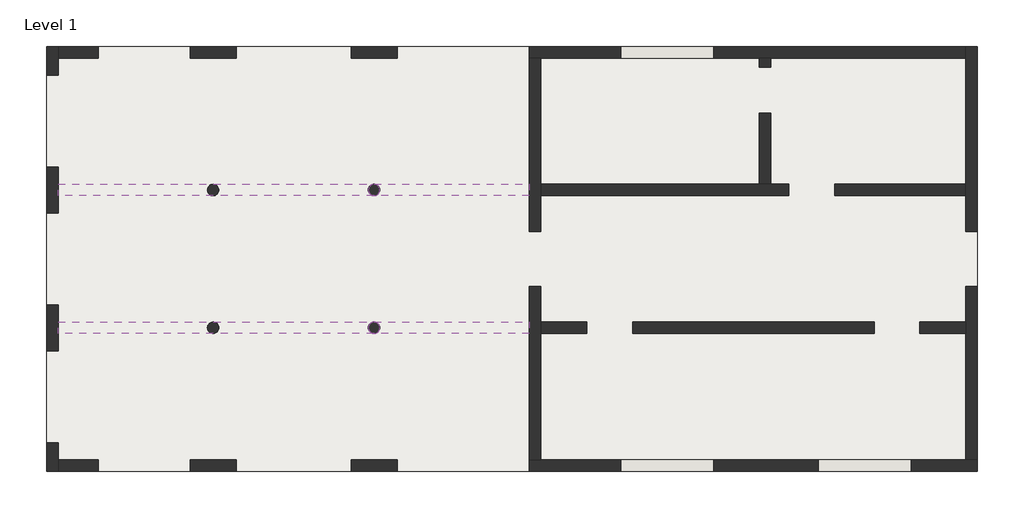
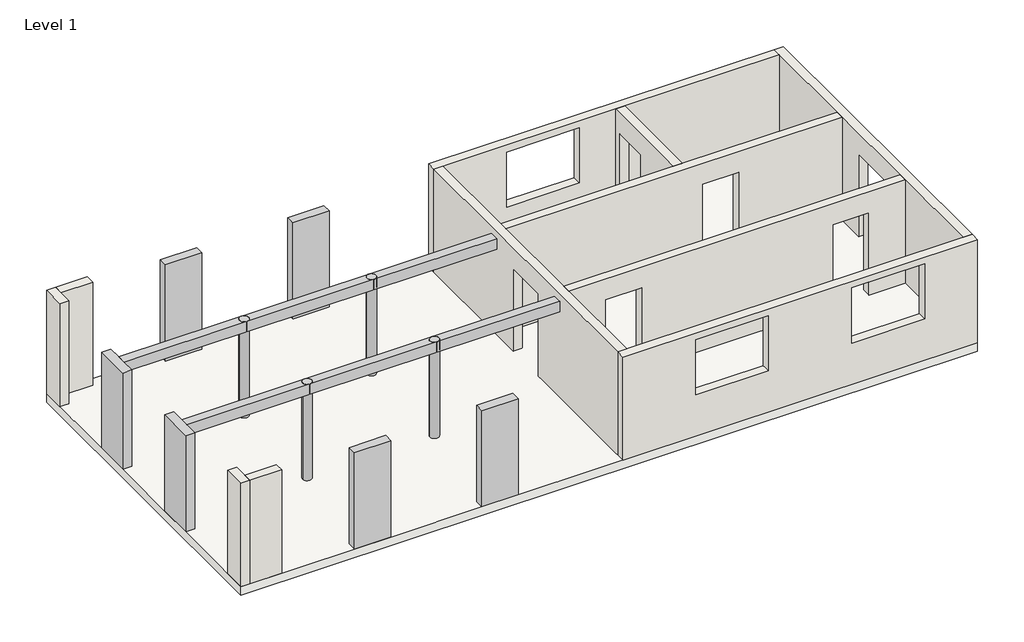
# One storey: 11 walls, 10 columns, 4 beams, 1 slab.
"""IFC4 building model written with IfcOpenShell, lengths in millimetres."""

from ifc_helpers import new_model, si_unit, point, frame, frame_2d, origin, origin_with_axes, place, context, project, spatial, polyline, circle_curve, trimmed, segment, composite_curve, outline, extrude, faceted_brep, element, save
from ifc_brep_helpers import plane_surface, cylinder_surface, revolved_surface, advanced_brep

model = new_model("IFC4")

# Units and contexts
model_context = context("Model", 3, world=origin())
ifc_project = project(units=[si_unit("LENGTHUNIT", "METRE", prefix="MILLI")], contexts=[model_context])

# Site, building, storey
site = spatial("IfcSite", under=ifc_project)
building = spatial("IfcBuilding", under=site)
storey = spatial("IfcBuildingStorey", under=building, Name="Level 1", Elevation=0.0)

# Beams
placement = place(None, origin())
element("IfcBeam", 1, ObjectType="M_Concrete-Rectangular Beam : 25/50 cm", at=placement, inside=storey, context=model_context, shape_type="AdvancedBrep", body=[
    advanced_brep(
    [(-10243.1210397, -3913.8455619, 2500.0), (-6743.1210397, -3913.8455619, 2500.0), (-6743.1210397, -3913.8455619, 2800.0), (-13618.1210397, -3913.8455619, 2800.0), (-13618.1210397, -3913.8455619, 2500.0), (-10118.1210397, -3788.8455619, 2500.0), (-10243.1210397, -3663.8455619, 2500.0), (-6743.1210397, -3663.8455619, 2500.0), (-6868.1210397, -3788.8455619, 2500.0), (-13618.1210397, -3663.8455619, 2500.0), (-13618.1210397, -3663.8455619, 2800.0), (-6743.1210397, -3663.8455619, 2800.0), (-10118.1210397, -3788.8455619, 2800.0), (-10368.1210397, -3788.8455619, 2800.0), (-10368.1210397, -3788.8455619, 2500.0), (-6868.1210397, -3788.8455619, 2800.0)],
    [
        (0, 1),
        (1, 2),
        (2, 3),
        (3, 4),
        (4, 0),
        (5, 6, circle_curve(frame((-10243.1210397, -3788.8455619, 2500.0), z_axis=(0.0, 0.0, 1.0), x_axis=(1.0, 0.0, 0.0)), 125.0)),
        (6, 7),
        (7, 8, circle_curve(frame((-6743.1210397, -3788.8455619, 2500.0), z_axis=(0.0, 0.0, 1.0), x_axis=(1.0, 0.0, 0.0)), 125.0)),
        (8, 1, circle_curve(frame((-6743.1210397, -3788.8455619, 2500.0), z_axis=(0.0, 0.0, 1.0), x_axis=(1.0, 0.0, 0.0)), 125.0)),
        (0, 5, circle_curve(frame((-10243.1210397, -3788.8455619, 2500.0), z_axis=(0.0, 0.0, 1.0), x_axis=(1.0, 0.0, 0.0)), 125.0)),
        (6, 9),
        (9, 10),
        (10, 11),
        (11, 7),
        (5, 12),
        (12, 13, circle_curve(frame((-10243.1210397, -3788.8455619, 2800.0), z_axis=(0.0, 0.0, 1.0), x_axis=(1.0, 0.0, 0.0)), 125.0)),
        (13, 14),
        (14, 6, circle_curve(frame((-10243.1210397, -3788.8455619, 2500.0), z_axis=(0.0, 0.0, -1.0), x_axis=(1.0, 0.0, 0.0)), 125.0)),
        (0, 14, circle_curve(frame((-10243.1210397, -3788.8455619, 2500.0), z_axis=(0.0, 0.0, -1.0), x_axis=(1.0, 0.0, 0.0)), 125.0)),
        (13, 12, circle_curve(frame((-10243.1210397, -3788.8455619, 2800.0), z_axis=(0.0, 0.0, 1.0), x_axis=(1.0, 0.0, 0.0)), 125.0)),
        (11, 15, circle_curve(frame((-6743.1210397, -3788.8455619, 2800.0), z_axis=(0.0, 0.0, 1.0), x_axis=(1.0, 0.0, 0.0)), 125.0)),
        (15, 8),
        (15, 2, circle_curve(frame((-6743.1210397, -3788.8455619, 2800.0), z_axis=(0.0, 0.0, 1.0), x_axis=(1.0, 0.0, 0.0)), 125.0)),
        (9, 4),
        (3, 10),
    ],
    [
        plane_surface(frame((-6880.8210397, -3913.8455619, 3000.0), z_axis=(0.0, -1.0, 0.0), x_axis=(-1.0, 0.0, 0.0))),
        plane_surface(frame((-6880.8210397, -3913.8455619, 2500.0), z_axis=(0.0, 0.0, -1.0), x_axis=(-1.0, 0.0, 0.0))),
        plane_surface(frame((-6880.8210397, -3663.8455619, 2500.0), z_axis=(0.0, 1.0, 0.0), x_axis=(-1.0, 0.0, 0.0))),
        revolved_surface(polyline([(-10118.1210397, -3788.8455619, 2800.0), (-10118.1210397, -3788.8455619, 2500.0)]), (-10243.1210397, -3788.8455619, 0.0), (0.0, 0.0, 1.0)),
        revolved_surface(polyline([(-6618.1210397, -3788.8455619, 2800.0), (-6618.1210397, -3788.8455619, 2500.0)]), (-6743.1210397, -3788.8455619, 0.0), (0.0, 0.0, 1.0)),
        plane_surface(frame((-13618.1210397, -4288.8455619, 3000.0), z_axis=(-1.0, 0.0, 0.0), x_axis=(0.0, 0.0, -1.0))),
        plane_surface(frame((6381.8789603, -663.8455619, 2800.0), z_axis=(0.0, 0.0, 1.0), x_axis=(0.0, -1.0, 0.0))),
    ],
    [
        (0, [[1, 2, 3, 4, 5]]),
        (1, [[6, 7, 8, 9, -1, 10]]),
        (2, [[-7, 11, 12, 13, 14]]),
        (3, [[-6, 15, 16, 17, 18]]),
        (3, [[19, -17, 20, -15, -10]]),
        (4, [[-8, -14, 21, 22]]),
        (4, [[-9, -22, 23, -2]]),
        (5, [[24, -4, 25, -12]]),
        (6, [[-3, -23, -21, -13, -25], [-16, -20]]),
        (1, [[-19, -5, -24, -11, -18]]),
    ],
),
])
element("IfcBeam", 2, ObjectType="M_Concrete-Rectangular Beam : 25/50 cm", at=placement, inside=storey, context=model_context, shape_type="SweptSolid", body=[
    extrude(outline(composite_curve([segment(polyline([(-3913.8455619, -6743.1210397), (-3913.8455619, -3368.1210397), (-3663.8455619, -3368.1210397), (-3663.8455619, -6743.1210397)]), True, "CONTINUOUS"), segment(trimmed(circle_curve(frame_2d((-3788.8455619, -6743.1210397)), 125.0), [point((-3663.8455619, -6743.1210397))], [point((-3788.8455619, -6618.1210397))], True, "CARTESIAN"), True, "CONTINUOUS"), segment(trimmed(circle_curve(frame_2d((-3788.8455619, -6743.1210397)), 125.0), [point((-3788.8455619, -6618.1210397))], [point((-3913.8455619, -6743.1210397))], True, "CARTESIAN"), True, "CONTINUOUS")], self_intersect=False)), frame((0.0, 0.0, 2800.0), z_axis=(0.0, 0.0, -1.0), x_axis=(0.0, 1.0, 0.0)), (0.0, 0.0, 1.0), 300.0),
])
element("IfcBeam", 3, ObjectType="M_Concrete-Rectangular Beam : 25/50 cm", at=placement, inside=storey, context=model_context, shape_type="AdvancedBrep", body=[
    advanced_brep(
    [(-10243.1210397, -6913.8455619, 2500.0), (-6743.1210397, -6913.8455619, 2500.0), (-6743.1210397, -6913.8455619, 2800.0), (-13618.1210397, -6913.8455619, 2800.0), (-13618.1210397, -6913.8455619, 2500.0), (-10118.1210397, -6788.8455619, 2500.0), (-10243.1210397, -6663.8455619, 2500.0), (-6743.1210397, -6663.8455619, 2500.0), (-6868.1210397, -6788.8455619, 2500.0), (-13618.1210397, -6663.8455619, 2500.0), (-13618.1210397, -6663.8455619, 2800.0), (-6743.1210397, -6663.8455619, 2800.0), (-10118.1210397, -6788.8455619, 2800.0), (-10368.1210397, -6788.8455619, 2800.0), (-10368.1210397, -6788.8455619, 2500.0), (-6868.1210397, -6788.8455619, 2800.0)],
    [
        (0, 1),
        (1, 2),
        (2, 3),
        (3, 4),
        (4, 0),
        (5, 6, circle_curve(frame((-10243.1210397, -6788.8455619, 2500.0), z_axis=(0.0, 0.0, 1.0), x_axis=(1.0, 0.0, 0.0)), 125.0)),
        (6, 7),
        (7, 8, circle_curve(frame((-6743.1210397, -6788.8455619, 2500.0), z_axis=(0.0, 0.0, 1.0), x_axis=(1.0, 0.0, 0.0)), 125.0)),
        (8, 1, circle_curve(frame((-6743.1210397, -6788.8455619, 2500.0), z_axis=(0.0, 0.0, 1.0), x_axis=(1.0, 0.0, 0.0)), 125.0)),
        (0, 5, circle_curve(frame((-10243.1210397, -6788.8455619, 2500.0), z_axis=(0.0, 0.0, 1.0), x_axis=(1.0, 0.0, 0.0)), 125.0)),
        (6, 9),
        (9, 10),
        (10, 11),
        (11, 7),
        (5, 12),
        (12, 13, circle_curve(frame((-10243.1210397, -6788.8455619, 2800.0), z_axis=(0.0, 0.0, 1.0), x_axis=(1.0, 0.0, 0.0)), 125.0)),
        (13, 14),
        (14, 6, circle_curve(frame((-10243.1210397, -6788.8455619, 2500.0), z_axis=(0.0, 0.0, -1.0), x_axis=(1.0, 0.0, 0.0)), 125.0)),
        (0, 14, circle_curve(frame((-10243.1210397, -6788.8455619, 2500.0), z_axis=(0.0, 0.0, -1.0), x_axis=(1.0, 0.0, 0.0)), 125.0)),
        (13, 12, circle_curve(frame((-10243.1210397, -6788.8455619, 2800.0), z_axis=(0.0, 0.0, 1.0), x_axis=(1.0, 0.0, 0.0)), 125.0)),
        (11, 15, circle_curve(frame((-6743.1210397, -6788.8455619, 2800.0), z_axis=(0.0, 0.0, 1.0), x_axis=(1.0, 0.0, 0.0)), 125.0)),
        (15, 8),
        (15, 2, circle_curve(frame((-6743.1210397, -6788.8455619, 2800.0), z_axis=(0.0, 0.0, 1.0), x_axis=(1.0, 0.0, 0.0)), 125.0)),
        (9, 4),
        (3, 10),
    ],
    [
        plane_surface(frame((-6880.8210397, -6913.8455619, 3000.0), z_axis=(0.0, -1.0, 0.0), x_axis=(-1.0, 0.0, 0.0))),
        plane_surface(frame((-6880.8210397, -6913.8455619, 2500.0), z_axis=(0.0, 0.0, -1.0), x_axis=(-1.0, 0.0, 0.0))),
        plane_surface(frame((-6880.8210397, -6663.8455619, 2500.0), z_axis=(0.0, 1.0, 0.0), x_axis=(-1.0, 0.0, 0.0))),
        revolved_surface(polyline([(-10118.1210397, -6788.8455619, 2800.0), (-10118.1210397, -6788.8455619, 2500.0)]), (-10243.1210397, -6788.8455619, 0.0), (0.0, 0.0, 1.0)),
        revolved_surface(polyline([(-6618.1210397, -6788.8455619, 2800.0), (-6618.1210397, -6788.8455619, 2500.0)]), (-6743.1210397, -6788.8455619, 0.0), (0.0, 0.0, 1.0)),
        plane_surface(frame((-13618.1210397, -7288.8455619, 3000.0), z_axis=(-1.0, 0.0, 0.0), x_axis=(0.0, 0.0, -1.0))),
        plane_surface(frame((6381.8789603, -663.8455619, 2800.0), z_axis=(0.0, 0.0, 1.0), x_axis=(0.0, -1.0, 0.0))),
    ],
    [
        (0, [[1, 2, 3, 4, 5]]),
        (1, [[6, 7, 8, 9, -1, 10]]),
        (2, [[-7, 11, 12, 13, 14]]),
        (3, [[-6, 15, 16, 17, 18]]),
        (3, [[19, -17, 20, -15, -10]]),
        (4, [[-8, -14, 21, 22]]),
        (4, [[-9, -22, 23, -2]]),
        (5, [[24, -4, 25, -12]]),
        (6, [[-3, -23, -21, -13, -25], [-16, -20]]),
        (1, [[-19, -5, -24, -11, -18]]),
    ],
),
])
element("IfcBeam", 4, ObjectType="M_Concrete-Rectangular Beam : 25/50 cm", at=placement, inside=storey, context=model_context, shape_type="SweptSolid", body=[
    extrude(outline(composite_curve([segment(polyline([(-3368.1210397, -6663.8455619), (-3368.1210397, -6913.8455619), (-6743.1210397, -6913.8455619)]), True, "CONTINUOUS"), segment(trimmed(circle_curve(frame_2d((-6743.1210397, -6788.8455619)), 125.0), [point((-6743.1210397, -6913.8455619))], [point((-6618.1210397, -6788.8455619))], True, "CARTESIAN"), True, "CONTINUOUS"), segment(trimmed(circle_curve(frame_2d((-6743.1210397, -6788.8455619)), 125.0), [point((-6618.1210397, -6788.8455619))], [point((-6743.1210397, -6663.8455619))], True, "CARTESIAN"), True, "CONTINUOUS"), segment(polyline([(-6743.1210397, -6663.8455619), (-3368.1210397, -6663.8455619)]), True, "CONTINUOUS")], self_intersect=False)), frame((0.0, 0.0, 2500.0), z_axis=(0.0, 0.0, 1.0), x_axis=(1.0, 0.0, 0.0)), (0.0, 0.0, 1.0), 300.0),
])

# Columns
element("IfcColumn", 5, ObjectType="Concrete Round : 25 cm", at=placement, inside=storey, context=model_context, shape_type="SweptSolid", body=[
    extrude(outline(composite_curve([segment(trimmed(circle_curve(frame_2d((-10243.1210397, -3788.8455619)), 125.0), [point((-10368.1210397, -3788.8455619))], [point((-10118.1210397, -3788.8455619))], False, "CARTESIAN"), True, "CONTINUOUS"), segment(trimmed(circle_curve(frame_2d((-10243.1210397, -3788.8455619)), 125.0), [point((-10118.1210397, -3788.8455619))], [point((-10368.1210397, -3788.8455619))], False, "CARTESIAN"), True, "CONTINUOUS")], self_intersect=False)), origin_with_axes(), (0.0, 0.0, 1.0), 2800.0),
])
element("IfcColumn", 6, ObjectType="Concrete Round : 25 cm", at=placement, inside=storey, context=model_context, shape_type="AdvancedBrep", body=[
    advanced_brep(
    [(-6868.1210397, -3788.8455619, 0.0), (-6618.1210397, -3788.8455619, 0.0), (-6868.1210397, -3788.8455619, 2800.0), (-6743.1210397, -3663.8455619, 2800.0), (-6618.1210397, -3788.8455619, 2800.0), (-6743.1210397, -3913.8455619, 2800.0)],
    [
        (0, 1, circle_curve(frame((-6743.1210397, -3788.8455619, 0.0), z_axis=(0.0, 0.0, -1.0), x_axis=(1.0, 0.0, 0.0)), 125.0)),
        (1, 0, circle_curve(frame((-6743.1210397, -3788.8455619, 0.0), z_axis=(0.0, 0.0, -1.0), x_axis=(1.0, 0.0, 0.0)), 125.0)),
        (0, 2),
        (2, 3, circle_curve(frame((-6743.1210397, -3788.8455619, 2800.0), z_axis=(0.0, 0.0, -1.0), x_axis=(1.0, 0.0, 0.0)), 125.0)),
        (3, 4, circle_curve(frame((-6743.1210397, -3788.8455619, 2800.0), z_axis=(0.0, 0.0, -1.0), x_axis=(1.0, 0.0, 0.0)), 125.0)),
        (4, 1),
        (4, 5, circle_curve(frame((-6743.1210397, -3788.8455619, 2800.0), z_axis=(0.0, 0.0, -1.0), x_axis=(1.0, 0.0, 0.0)), 125.0)),
        (5, 2, circle_curve(frame((-6743.1210397, -3788.8455619, 2800.0), z_axis=(0.0, 0.0, -1.0), x_axis=(1.0, 0.0, 0.0)), 125.0)),
    ],
    [
        plane_surface(frame((-6618.1210397, -3788.8455619, 0.0), z_axis=(0.0, 0.0, -1.0), x_axis=(0.0, -1.0, 0.0))),
        cylinder_surface(frame((-6743.1210397, -3788.8455619, 0.0), z_axis=(0.0, 0.0, 1.0), x_axis=(1.0, 0.0, 0.0)), 125.0),
        plane_surface(frame((6381.8789603, -663.8455619, 2800.0), z_axis=(0.0, 0.0, 1.0), x_axis=(0.0, -1.0, 0.0))),
    ],
    [
        (0, [[1, 2]]),
        (1, [[-1, 3, 4, 5, 6]]),
        (1, [[-2, -6, 7, 8, -3]]),
        (2, [[-5, -4, -8, -7]]),
    ],
),
])
element("IfcColumn", 7, ObjectType="Concrete Round : 25 cm", at=placement, inside=storey, context=model_context, shape_type="SweptSolid", body=[
    extrude(outline(composite_curve([segment(trimmed(circle_curve(frame_2d((-10243.1210397, -6788.8455619)), 125.0), [point((-10368.1210397, -6788.8455619))], [point((-10118.1210397, -6788.8455619))], False, "CARTESIAN"), True, "CONTINUOUS"), segment(trimmed(circle_curve(frame_2d((-10243.1210397, -6788.8455619)), 125.0), [point((-10118.1210397, -6788.8455619))], [point((-10368.1210397, -6788.8455619))], False, "CARTESIAN"), True, "CONTINUOUS")], self_intersect=False)), origin_with_axes(), (0.0, 0.0, 1.0), 2800.0),
])
element("IfcColumn", 8, ObjectType="Concrete Round : 25 cm", at=placement, inside=storey, context=model_context, shape_type="AdvancedBrep", body=[
    advanced_brep(
    [(-6868.1210397, -6788.8455619, 0.0), (-6618.1210397, -6788.8455619, 0.0), (-6868.1210397, -6788.8455619, 2800.0), (-6743.1210397, -6663.8455619, 2800.0), (-6618.1210397, -6788.8455619, 2800.0), (-6743.1210397, -6913.8455619, 2800.0)],
    [
        (0, 1, circle_curve(frame((-6743.1210397, -6788.8455619, 0.0), z_axis=(0.0, 0.0, -1.0), x_axis=(1.0, 0.0, 0.0)), 125.0)),
        (1, 0, circle_curve(frame((-6743.1210397, -6788.8455619, 0.0), z_axis=(0.0, 0.0, -1.0), x_axis=(1.0, 0.0, 0.0)), 125.0)),
        (0, 2),
        (2, 3, circle_curve(frame((-6743.1210397, -6788.8455619, 2800.0), z_axis=(0.0, 0.0, -1.0), x_axis=(1.0, 0.0, 0.0)), 125.0)),
        (3, 4, circle_curve(frame((-6743.1210397, -6788.8455619, 2800.0), z_axis=(0.0, 0.0, -1.0), x_axis=(1.0, 0.0, 0.0)), 125.0)),
        (4, 1),
        (4, 5, circle_curve(frame((-6743.1210397, -6788.8455619, 2800.0), z_axis=(0.0, 0.0, -1.0), x_axis=(1.0, 0.0, 0.0)), 125.0)),
        (5, 2, circle_curve(frame((-6743.1210397, -6788.8455619, 2800.0), z_axis=(0.0, 0.0, -1.0), x_axis=(1.0, 0.0, 0.0)), 125.0)),
    ],
    [
        plane_surface(frame((-6618.1210397, -6788.8455619, 0.0), z_axis=(0.0, 0.0, -1.0), x_axis=(0.0, -1.0, 0.0))),
        cylinder_surface(frame((-6743.1210397, -6788.8455619, 0.0), z_axis=(0.0, 0.0, 1.0), x_axis=(1.0, 0.0, 0.0)), 125.0),
        plane_surface(frame((6381.8789603, -663.8455619, 2800.0), z_axis=(0.0, 0.0, 1.0), x_axis=(0.0, -1.0, 0.0))),
    ],
    [
        (0, [[1, 2]]),
        (1, [[-1, 3, 4, 5, 6]]),
        (1, [[-2, -6, 7, 8, -3]]),
        (2, [[-5, -4, -8, -7]]),
    ],
),
])
element("IfcColumn", 9, ObjectType="M_Concrete-Rectangular-Column : 25 x 100", at=placement, inside=storey, context=model_context, shape_type="SweptSolid", body=[
    extrude(outline(polyline([(-10743.1210397, -663.8455619), (-9743.1210397, -663.8455619), (-9743.1210397, -913.8455619), (-10743.1210397, -913.8455619), (-10743.1210397, -663.8455619)])), origin_with_axes(), (0.0, 0.0, 1.0), 2800.0),
])
element("IfcColumn", 10, ObjectType="M_Concrete-Rectangular-Column : 25 x 100", at=placement, inside=storey, context=model_context, shape_type="SweptSolid", body=[
    extrude(outline(polyline([(-7243.1210397, -663.8455619), (-6243.1210397, -663.8455619), (-6243.1210397, -913.8455619), (-7243.1210397, -913.8455619), (-7243.1210397, -663.8455619)])), origin_with_axes(), (0.0, 0.0, 1.0), 2800.0),
])
element("IfcColumn", 11, ObjectType="M_Concrete-Rectangular-Column : 25 x 100", at=placement, inside=storey, context=model_context, shape_type="SweptSolid", body=[
    extrude(outline(polyline([(-10743.1210397, -9663.8455619), (-9743.1210397, -9663.8455619), (-9743.1210397, -9913.8455619), (-10743.1210397, -9913.8455619), (-10743.1210397, -9663.8455619)])), origin_with_axes(), (0.0, 0.0, 1.0), 2800.0),
])
element("IfcColumn", 12, ObjectType="M_Concrete-Rectangular-Column : 25 x 100", at=placement, inside=storey, context=model_context, shape_type="SweptSolid", body=[
    extrude(outline(polyline([(-7243.1210397, -9663.8455619), (-6243.1210397, -9663.8455619), (-6243.1210397, -9913.8455619), (-7243.1210397, -9913.8455619), (-7243.1210397, -9663.8455619)])), origin_with_axes(), (0.0, 0.0, 1.0), 2800.0),
])
element("IfcColumn", 13, ObjectType="M_Concrete-Rectangular-Column : 25 x 100", at=placement, inside=storey, context=model_context, shape_type="Brep", body=[
    faceted_brep([(-13618.1210397, -3288.8455619, 0.0), (-13618.1210397, -4288.8455619, 0.0), (-13868.1210397, -4288.8455619, 0.0), (-13868.1210397, -3288.8455619, 0.0), (-13618.1210397, -3288.8455619, 2800.0), (-13618.1210397, -3663.8455619, 2800.0), (-13618.1210397, -3913.8455619, 2800.0), (-13618.1210397, -4288.8455619, 2800.0), (-13868.1210397, -4288.8455619, 2800.0), (-13868.1210397, -3288.8455619, 2800.0)], [[[0, 1, 2, 3]], [[1, 0, 4, 5, 6, 7]], [[2, 1, 7, 8]], [[3, 2, 8, 9]], [[0, 3, 9, 4]], [[7, 6, 5, 4, 9, 8]]]),
])
element("IfcColumn", 14, ObjectType="M_Concrete-Rectangular-Column : 25 x 100", at=placement, inside=storey, context=model_context, shape_type="Brep", body=[
    faceted_brep([(-13618.1210397, -6288.8455619, 0.0), (-13618.1210397, -7288.8455619, 0.0), (-13868.1210397, -7288.8455619, 0.0), (-13868.1210397, -6288.8455619, 0.0), (-13618.1210397, -6288.8455619, 2800.0), (-13618.1210397, -6663.8455619, 2800.0), (-13618.1210397, -6913.8455619, 2800.0), (-13618.1210397, -7288.8455619, 2800.0), (-13868.1210397, -7288.8455619, 2800.0), (-13868.1210397, -6288.8455619, 2800.0)], [[[0, 1, 2, 3]], [[1, 0, 4, 5, 6, 7]], [[2, 1, 7, 8]], [[3, 2, 8, 9]], [[0, 3, 9, 4]], [[7, 6, 5, 4, 9, 8]]]),
])

# Slab
element("IfcSlab", 15, ObjectType="Concrete Slab 25 cm", at=placement, inside=storey, context=model_context, shape_type="Brep", body=[
    faceted_brep([(6381.8789603, -663.8455619, -250.0), (6381.8789603, -9913.8455619, -250.0), (-13868.1210397, -9913.8455619, -250.0), (-13868.1210397, -663.8455619, -250.0), (6381.8789603, -663.8455619, 0.0), (-6243.1210397, -663.8455619, 0.0), (-7243.1210397, -663.8455619, 0.0), (-9743.1210397, -663.8455619, 0.0), (-10743.1210397, -663.8455619, 0.0), (-13868.1210397, -663.8455619, 0.0), (-13868.1210397, -3288.8455619, 0.0), (-13868.1210397, -4288.8455619, 0.0), (-13868.1210397, -6288.8455619, 0.0), (-13868.1210397, -7288.8455619, 0.0), (-13868.1210397, -9913.8455619, 0.0), (-10743.1210397, -9913.8455619, 0.0), (-9743.1210397, -9913.8455619, 0.0), (-7243.1210397, -9913.8455619, 0.0), (-6243.1210397, -9913.8455619, 0.0), (6381.8789603, -9913.8455619, 0.0)], [[[0, 1, 2, 3]], [[4, 5, 6, 7, 8, 9, 10, 11, 12, 13, 14, 15, 16, 17, 18, 19]], [[1, 0, 4, 19]], [[2, 1, 19, 18, 17, 16, 15, 14]], [[3, 2, 14, 13, 12, 11, 10, 9]], [[0, 3, 9, 8, 7, 6, 5, 4]]]),
])

# Walls
element("IfcWall", 16, ObjectType="Concrete 25 cm", at=placement, inside=storey, context=model_context, shape_type="Brep", body=[
    faceted_brep([(-13618.1210397, -1288.8455619, 0.0), (-13618.1210397, -913.8455619, 0.0), (-13618.1210397, -663.8455619, 0.0), (-13618.1210397, -663.8455619, 3000.0), (-13618.1210397, -913.8455619, 3000.0), (-13618.1210397, -1288.8455619, 3000.0), (-13868.1210397, -1288.8455619, 0.0), (-13868.1210397, -1288.8455619, 3000.0), (-13868.1210397, -663.8455619, 3000.0), (-13868.1210397, -663.8455619, 0.0)], [[[0, 1, 2, 3, 4, 5]], [[6, 7, 8, 9]], [[2, 1, 0, 6, 9]], [[5, 4, 3, 8, 7]], [[0, 5, 7, 6]], [[3, 2, 9, 8]]]),
])
element("IfcWall", 17, ObjectType="Concrete 25 cm", at=placement, inside=storey, context=model_context, shape_type="SweptSolid", body=[
    extrude(outline(polyline([(-12743.1210397, -913.8455619), (-13618.1210397, -913.8455619), (-13618.1210397, -663.8455619), (-12743.1210397, -663.8455619), (-12743.1210397, -913.8455619)])), origin_with_axes(), (0.0, 0.0, 1.0), 3000.0),
])
element("IfcWall", 18, ObjectType="Concrete 25 cm", at=placement, inside=storey, context=model_context, shape_type="Brep", body=[
    faceted_brep([(-13868.1210397, -9288.8455619, 0.0), (-13868.1210397, -9913.8455619, 0.0), (-13868.1210397, -9913.8455619, 3000.0), (-13868.1210397, -9288.8455619, 3000.0), (-13618.1210397, -9288.8455619, 0.0), (-13618.1210397, -9288.8455619, 3000.0), (-13618.1210397, -9663.8455619, 3000.0), (-13618.1210397, -9913.8455619, 3000.0), (-13618.1210397, -9913.8455619, 0.0), (-13618.1210397, -9663.8455619, 0.0)], [[[0, 1, 2, 3]], [[4, 5, 6, 7, 8, 9]], [[1, 0, 4, 9, 8]], [[3, 2, 7, 6, 5]], [[0, 3, 5, 4]], [[2, 1, 8, 7]]]),
])
element("IfcWall", 19, ObjectType="Concrete 25 cm", at=placement, inside=storey, context=model_context, shape_type="SweptSolid", body=[
    extrude(outline(polyline([(-12743.1210397, -9913.8455619), (-13618.1210397, -9913.8455619), (-13618.1210397, -9663.8455619), (-12743.1210397, -9663.8455619), (-12743.1210397, -9913.8455619)])), origin_with_axes(), (0.0, 0.0, 1.0), 3000.0),
])
element("IfcWall", 20, ObjectType="Concrete 25 cm", at=placement, inside=storey, context=model_context, shape_type="Brep", body=[
    faceted_brep([(-3368.1210397, -9913.8455619, 0.0), (6381.8789603, -9913.8455619, 0.0), (6381.8789603, -9913.8455619, 3000.0), (-3368.1210397, -9913.8455619, 3000.0), (631.8789603, -9913.8455619, 2800.0), (631.8789603, -9913.8455619, 1200.0), (-1368.1210397, -9913.8455619, 1200.0), (-1368.1210397, -9913.8455619, 2800.0), (4931.8789603, -9913.8455619, 2800.0), (4931.8789603, -9913.8455619, 1200.0), (2931.8789603, -9913.8455619, 1200.0), (2931.8789603, -9913.8455619, 2800.0), (-3368.1210397, -9663.8455619, 0.0), (-3368.1210397, -9663.8455619, 3000.0), (-3118.1210397, -9663.8455619, 3000.0), (6131.8789603, -9663.8455619, 3000.0), (6381.8789603, -9663.8455619, 3000.0), (6381.8789603, -9663.8455619, 0.0), (6131.8789603, -9663.8455619, 0.0), (-3118.1210397, -9663.8455619, 0.0), (631.8789603, -9663.8455619, 2800.0), (-1368.1210397, -9663.8455619, 2800.0), (-1368.1210397, -9663.8455619, 1200.0), (631.8789603, -9663.8455619, 1200.0), (4931.8789603, -9663.8455619, 2800.0), (2931.8789603, -9663.8455619, 2800.0), (2931.8789603, -9663.8455619, 1200.0), (4931.8789603, -9663.8455619, 1200.0)], [[[0, 1, 2, 3], [4, 5, 6, 7], [8, 9, 10, 11]], [[12, 13, 14, 15, 16, 17, 18, 19], [20, 21, 22, 23], [24, 25, 26, 27]], [[1, 0, 12, 19, 18, 17]], [[3, 2, 16, 15, 14, 13]], [[2, 1, 17, 16]], [[0, 3, 13, 12]], [[5, 4, 20, 23]], [[6, 5, 23, 22]], [[7, 6, 22, 21]], [[4, 7, 21, 20]], [[9, 8, 24, 27]], [[10, 9, 27, 26]], [[11, 10, 26, 25]], [[8, 11, 25, 24]]]),
])
element("IfcWall", 21, ObjectType="Concrete 25 cm", at=placement, inside=storey, context=model_context, shape_type="Brep", body=[
    faceted_brep([(6381.8789603, -9663.8455619, 0.0), (6381.8789603, -5888.8455619, 0.0), (6381.8789603, -5888.8455619, 2400.0), (6381.8789603, -4688.8455619, 2400.0), (6381.8789603, -4688.8455619, 0.0), (6381.8789603, -663.8455619, 0.0), (6381.8789603, -663.8455619, 3000.0), (6381.8789603, -9663.8455619, 3000.0), (6131.8789603, -5888.8455619, 2400.0), (6131.8789603, -5888.8455619, 0.0), (6131.8789603, -6663.8455619, 0.0), (6131.8789603, -6913.8455619, 0.0), (6131.8789603, -9663.8455619, 0.0), (6131.8789603, -9663.8455619, 3000.0), (6131.8789603, -6913.8455619, 3000.0), (6131.8789603, -6663.8455619, 3000.0), (6131.8789603, -3913.8455619, 3000.0), (6131.8789603, -3663.8455619, 3000.0), (6131.8789603, -913.8455619, 3000.0), (6131.8789603, -663.8455619, 3000.0), (6131.8789603, -663.8455619, 0.0), (6131.8789603, -913.8455619, 0.0), (6131.8789603, -3663.8455619, 0.0), (6131.8789603, -3913.8455619, 0.0), (6131.8789603, -4688.8455619, 0.0), (6131.8789603, -4688.8455619, 2400.0)], [[[0, 1, 2, 3, 4, 5, 6, 7]], [[8, 9, 10, 11, 12, 13, 14, 15, 16, 17, 18, 19, 20, 21, 22, 23, 24, 25]], [[24, 23, 22, 21, 20, 5, 4]], [[12, 11, 10, 9, 1, 0]], [[7, 6, 19, 18, 17, 16, 15, 14, 13]], [[0, 7, 13, 12]], [[6, 5, 20, 19]], [[4, 3, 25, 24]], [[2, 1, 9, 8]], [[3, 2, 8, 25]]]),
])
element("IfcWall", 22, ObjectType="Concrete 25 cm", at=placement, inside=storey, context=model_context, shape_type="Brep", body=[
    faceted_brep([(6131.8789603, -663.8455619, 0.0), (-3368.1210397, -663.8455619, 0.0), (-3368.1210397, -663.8455619, 3000.0), (6131.8789603, -663.8455619, 3000.0), (631.8789603, -663.8455619, 2800.0), (-1368.1210397, -663.8455619, 2800.0), (-1368.1210397, -663.8455619, 1200.0), (631.8789603, -663.8455619, 1200.0), (6131.8789603, -913.8455619, 0.0), (6131.8789603, -913.8455619, 3000.0), (1881.8789603, -913.8455619, 3000.0), (1631.8789603, -913.8455619, 3000.0), (-3118.1210397, -913.8455619, 3000.0), (-3368.1210397, -913.8455619, 3000.0), (-3368.1210397, -913.8455619, 0.0), (-3118.1210397, -913.8455619, 0.0), (1631.8789603, -913.8455619, 0.0), (1881.8789603, -913.8455619, 0.0), (631.8789603, -913.8455619, 2800.0), (631.8789603, -913.8455619, 1200.0), (-1368.1210397, -913.8455619, 1200.0), (-1368.1210397, -913.8455619, 2800.0)], [[[0, 1, 2, 3], [4, 5, 6, 7]], [[8, 9, 10, 11, 12, 13, 14, 15, 16, 17], [18, 19, 20, 21]], [[1, 0, 8, 17, 16, 15, 14]], [[3, 2, 13, 12, 11, 10, 9]], [[0, 3, 9, 8]], [[2, 1, 14, 13]], [[19, 18, 4, 7]], [[20, 19, 7, 6]], [[21, 20, 6, 5]], [[18, 21, 5, 4]]]),
])
element("IfcWall", 23, ObjectType="Concrete 25 cm", at=placement, inside=storey, context=model_context, shape_type="Brep", body=[
    faceted_brep([(-3368.1210397, -5888.8455619, 2400.0), (-3368.1210397, -5888.8455619, 0.0), (-3368.1210397, -9663.8455619, 0.0), (-3368.1210397, -9663.8455619, 3000.0), (-3368.1210397, -913.8455619, 3000.0), (-3368.1210397, -913.8455619, 0.0), (-3368.1210397, -4688.8455619, 0.0), (-3368.1210397, -4688.8455619, 2400.0), (-3118.1210397, -9663.8455619, 0.0), (-3118.1210397, -6913.8455619, 0.0), (-3118.1210397, -6663.8455619, 0.0), (-3118.1210397, -5888.8455619, 0.0), (-3118.1210397, -5888.8455619, 2400.0), (-3118.1210397, -4688.8455619, 2400.0), (-3118.1210397, -4688.8455619, 0.0), (-3118.1210397, -3913.8455619, 0.0), (-3118.1210397, -3663.8455619, 0.0), (-3118.1210397, -913.8455619, 0.0), (-3118.1210397, -913.8455619, 3000.0), (-3118.1210397, -3663.8455619, 3000.0), (-3118.1210397, -3913.8455619, 3000.0), (-3118.1210397, -6663.8455619, 3000.0), (-3118.1210397, -6913.8455619, 3000.0), (-3118.1210397, -9663.8455619, 3000.0)], [[[0, 1, 2, 3, 4, 5, 6, 7]], [[8, 9, 10, 11, 12, 13, 14, 15, 16, 17, 18, 19, 20, 21, 22, 23]], [[6, 5, 17, 16, 15, 14]], [[2, 1, 11, 10, 9, 8]], [[4, 3, 23, 22, 21, 20, 19, 18]], [[3, 2, 8, 23]], [[5, 4, 18, 17]], [[14, 13, 7, 6]], [[12, 11, 1, 0]], [[13, 12, 0, 7]]]),
])
element("IfcWall", 24, ObjectType="Concrete 25 cm", at=placement, inside=storey, context=model_context, shape_type="Brep", body=[
    faceted_brep([(-3118.1210397, -3913.8455619, 0.0), (2281.8789603, -3913.8455619, 0.0), (2281.8789603, -3913.8455619, 2400.0), (3281.8789603, -3913.8455619, 2400.0), (3281.8789603, -3913.8455619, 0.0), (6131.8789603, -3913.8455619, 0.0), (6131.8789603, -3913.8455619, 3000.0), (-3118.1210397, -3913.8455619, 3000.0), (2281.8789603, -3663.8455619, 2400.0), (2281.8789603, -3663.8455619, 0.0), (1881.8789603, -3663.8455619, 0.0), (1631.8789603, -3663.8455619, 0.0), (-3118.1210397, -3663.8455619, 0.0), (-3118.1210397, -3663.8455619, 3000.0), (1631.8789603, -3663.8455619, 3000.0), (1881.8789603, -3663.8455619, 3000.0), (6131.8789603, -3663.8455619, 3000.0), (6131.8789603, -3663.8455619, 0.0), (3281.8789603, -3663.8455619, 0.0), (3281.8789603, -3663.8455619, 2400.0)], [[[0, 1, 2, 3, 4, 5, 6, 7]], [[8, 9, 10, 11, 12, 13, 14, 15, 16, 17, 18, 19]], [[18, 17, 5, 4]], [[12, 11, 10, 9, 1, 0]], [[7, 6, 16, 15, 14, 13]], [[6, 5, 17, 16]], [[0, 7, 13, 12]], [[4, 3, 19, 18]], [[2, 1, 9, 8]], [[3, 2, 8, 19]]]),
])
element("IfcWall", 25, ObjectType="Concrete 25 cm", at=placement, inside=storey, context=model_context, shape_type="SweptSolid", body=[
    extrude(outline(polyline([(0.0, -1118.1210397), (0.0, 4131.8789603), (2400.0, 4131.8789603), (2400.0, 5131.8789603), (0.0, 5131.8789603), (0.0, 6131.8789603), (3000.0, 6131.8789603), (3000.0, -3118.1210397), (0.0, -3118.1210397), (0.0, -2118.1210397), (2400.0, -2118.1210397), (2400.0, -1118.1210397), (0.0, -1118.1210397)])), frame((0.0, -6913.8455619, 0.0), z_axis=(0.0, 1.0, 0.0), x_axis=(0.0, 0.0, 1.0)), (0.0, 0.0, 1.0), 250.0),
])
element("IfcWall", 26, ObjectType="Concrete 25 cm", at=placement, inside=storey, context=model_context, shape_type="SweptSolid", body=[
    extrude(outline(polyline([(-913.8455619, 0.0), (-1113.8455619, 0.0), (-1113.8455619, 2400.0), (-2113.8455619, 2400.0), (-2113.8455619, 0.0), (-3663.8455619, 0.0), (-3663.8455619, 3000.0), (-913.8455619, 3000.0), (-913.8455619, 0.0)])), frame((1631.8789603, 0.0, 0.0), z_axis=(1.0, 0.0, 0.0), x_axis=(0.0, 1.0, 0.0)), (0.0, 0.0, 1.0), 250.0),
])

save(model, "model.ifc")
